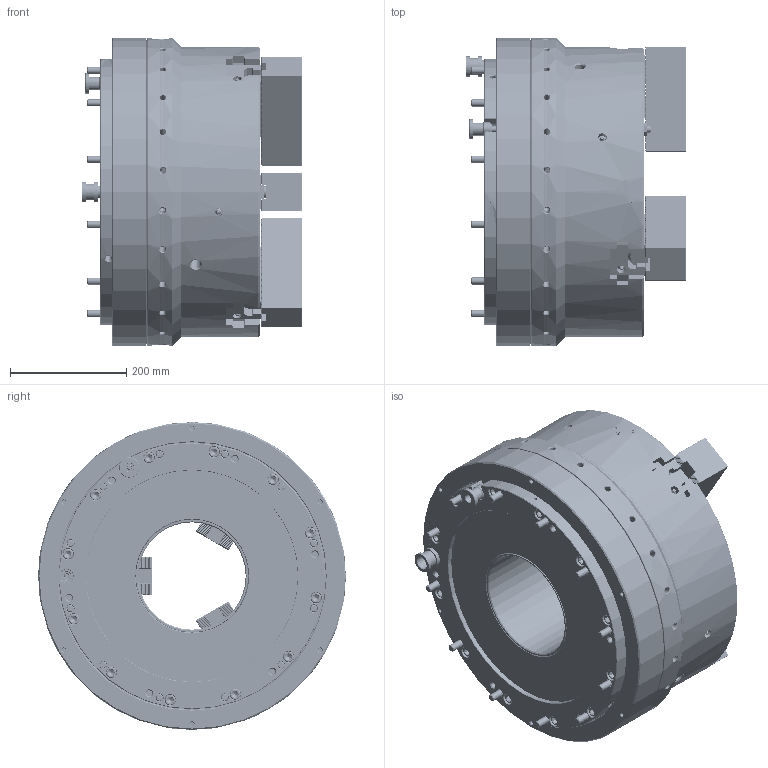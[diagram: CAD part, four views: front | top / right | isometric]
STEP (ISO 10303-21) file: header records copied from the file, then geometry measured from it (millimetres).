
FILE_DESCRIPTION (( 'STEP AP214' ), '1' );
FILE_NAME ('UPR530A185_OC.STEP', '2025-10-24T02:42:40', ( '' ), ( '' ), 'SwSTEP 2.0', 'SolidWorks 2022', '' );
FILE_SCHEMA (( 'AUTOMOTIVE_DESIGN' ));
Length unit declared in the file: millimetre
Products named in the file (5): UPR530A185_OC; Copy of 61P372874^UPR530A185_VIEW; Copy of 61P493019^UPR530A185_VIEW; Copy of 0030120050^UPR530A185_VIEW; Part2^UPR530A185_VIEW
Assembly tree (16 placements, depth 2):
  UPR530A185_OC
    Copy of 61P372874^UPR530A185_VIEW  x3
    Copy of 61P493019^UPR530A185_VIEW  x6
    Copy of 0030120050^UPR530A185_VIEW  x6
    Part2^UPR530A185_VIEW
Bounding box: 378.28 x 530 x 530 mm (x, y, z)
Volume: 49125832 mm3; surface area: 2314867 mm2
Topology: 17 solids, 42 shells, 9164 faces, 25016 edges, 16275 vertices
Faces by surface type: plane 4792, cylinder 2303, cone 965, bspline 960, torus 132, sphere 12
Entity records: 269106 total; most frequent: CARTESIAN_POINT 96082, ORIENTED_EDGE 38964, DIRECTION 30278, EDGE_CURVE 19482, VERTEX_POINT 12720, VECTOR 12344, LINE 12344, AXIS2_PLACEMENT_3D 8967
